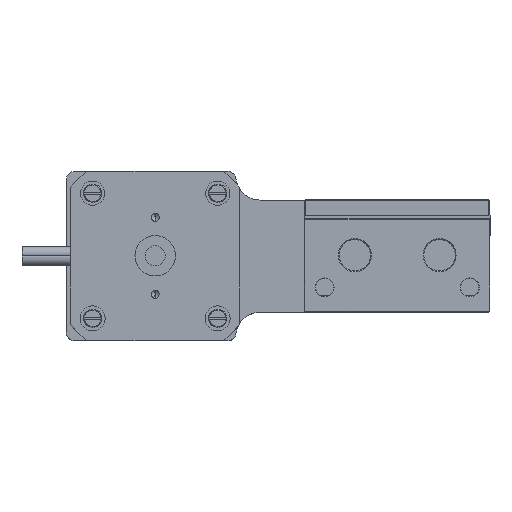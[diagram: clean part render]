
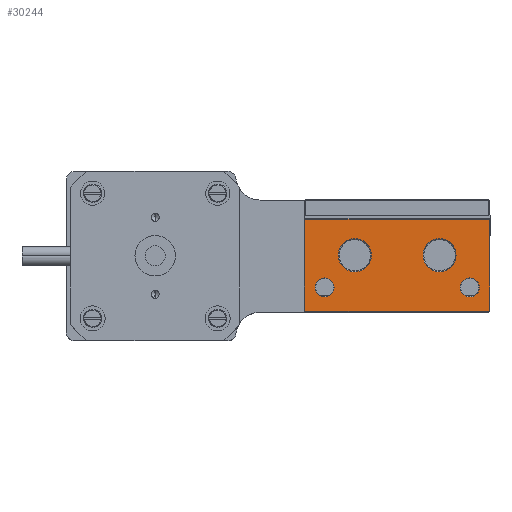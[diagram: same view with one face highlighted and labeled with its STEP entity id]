
A CAD part, top view. The second image highlights one B-rep face of the part: STEP entity #30244.
In plain terms, the highlighted planar face has unit normal (0, 0, 1).
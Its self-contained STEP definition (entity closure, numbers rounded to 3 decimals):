
#1327 = AXIS2_PLACEMENT_3D ( 'NONE', #18374, #69703, #25766 ) ;
#2484 = LINE ( 'NONE', #67274, #78247 ) ;
#3213 = CARTESIAN_POINT ( 'NONE',  ( -23., 22.9, 134. ) ) ;
#3937 = VERTEX_POINT ( 'NONE', #46865 ) ;
#4094 = DIRECTION ( 'NONE',  ( -1., 0., 0. ) ) ;
#5164 = DIRECTION ( 'NONE',  ( 1., 0., 0. ) ) ;
#5530 = VERTEX_POINT ( 'NONE', #23827 ) ;
#6008 = VERTEX_POINT ( 'NONE', #20230 ) ;
#6300 = VERTEX_POINT ( 'NONE', #52679 ) ;
#9007 = DIRECTION ( 'NONE',  ( 0., 0., -1. ) ) ;
#9051 = FACE_BOUND ( 'NONE', #30465, .T. ) ;
#9092 = CIRCLE ( 'NONE', #67226, 2.35 ) ;
#9543 = CARTESIAN_POINT ( 'NONE',  ( 10.5, 14., 134. ) ) ;
#11174 = VERTEX_POINT ( 'NONE', #51593 ) ;
#11446 = AXIS2_PLACEMENT_3D ( 'NONE', #53102, #9007, #60453 ) ;
#12953 = VERTEX_POINT ( 'NONE', #41707 ) ;
#14403 = CARTESIAN_POINT ( 'NONE',  ( -14.6, 14., 134. ) ) ;
#14686 = CARTESIAN_POINT ( 'NONE',  ( -6.4, 14., 134. ) ) ;
#17009 = DIRECTION ( 'NONE',  ( -1., 0., 0. ) ) ;
#17884 = VECTOR ( 'NONE', #54945, 1000. ) ;
#18374 = CARTESIAN_POINT ( 'NONE',  ( 18., 6., 134. ) ) ;
#18550 = CARTESIAN_POINT ( 'NONE',  ( -18., 6., 134. ) ) ;
#20230 = CARTESIAN_POINT ( 'NONE',  ( 6.4, 14., 134. ) ) ;
#21215 = ORIENTED_EDGE ( 'NONE', *, *, #42415, .T. ) ;
#21226 = EDGE_CURVE ( 'NONE', #6008, #77141, #25748, .T. ) ;
#23229 = EDGE_CURVE ( 'NONE', #6300, #12953, #65764, .T. ) ;
#23686 = AXIS2_PLACEMENT_3D ( 'NONE', #42127, #93082, #49502 ) ;
#23827 = CARTESIAN_POINT ( 'NONE',  ( 22.9, 0.1, 134. ) ) ;
#24237 = CARTESIAN_POINT ( 'NONE',  ( 15.65, 6., 134. ) ) ;
#25088 = PLANE ( 'NONE',  #57176 ) ;
#25748 = CIRCLE ( 'NONE', #79381, 4.1 ) ;
#25766 = DIRECTION ( 'NONE',  ( -1., 0., 0. ) ) ;
#25957 = DIRECTION ( 'NONE',  ( -1., 0., 0. ) ) ;
#27397 = CIRCLE ( 'NONE', #42104, 4.1 ) ;
#27858 = DIRECTION ( 'NONE',  ( 0., 0., -1. ) ) ;
#28654 = FACE_BOUND ( 'NONE', #78794, .T. ) ;
#30244 = ADVANCED_FACE ( 'NONE', ( #28654, #9051, #84686, #86964, #65403 ), #25088, .F. ) ;
#30465 = EDGE_LOOP ( 'NONE', ( #40516, #56901 ) ) ;
#33082 = DIRECTION ( 'NONE',  ( 0., 0., -1. ) ) ;
#33472 = CARTESIAN_POINT ( 'NONE',  ( 14.6, 14., 134. ) ) ;
#38519 = EDGE_LOOP ( 'NONE', ( #89948, #80307, #21215, #51389 ) ) ;
#39005 = CIRCLE ( 'NONE', #78151, 2.35 ) ;
#40516 = ORIENTED_EDGE ( 'NONE', *, *, #60845, .T. ) ;
#41442 = VECTOR ( 'NONE', #5164, 1000. ) ;
#41707 = CARTESIAN_POINT ( 'NONE',  ( -22.9, 22.9, 134. ) ) ;
#41919 = CARTESIAN_POINT ( 'NONE',  ( 23., 0.1, 134. ) ) ;
#42104 = AXIS2_PLACEMENT_3D ( 'NONE', #71780, #27858, #79067 ) ;
#42127 = CARTESIAN_POINT ( 'NONE',  ( -10.5, 14., 134. ) ) ;
#42415 = EDGE_CURVE ( 'NONE', #11174, #5530, #80294, .T. ) ;
#43038 = EDGE_CURVE ( 'NONE', #3937, #47798, #9092, .T. ) ;
#44098 = EDGE_CURVE ( 'NONE', #59077, #87642, #39005, .T. ) ;
#44334 = EDGE_CURVE ( 'NONE', #77141, #6008, #27397, .T. ) ;
#45094 = CARTESIAN_POINT ( 'NONE',  ( -15.65, 6., 134. ) ) ;
#45280 = CIRCLE ( 'NONE', #11446, 4.1 ) ;
#46865 = CARTESIAN_POINT ( 'NONE',  ( 20.35, 6., 134. ) ) ;
#47020 = DIRECTION ( 'NONE',  ( 0., 0., -1. ) ) ;
#47798 = VERTEX_POINT ( 'NONE', #24237 ) ;
#48258 = DIRECTION ( 'NONE',  ( 0., 0., -1. ) ) ;
#49502 = DIRECTION ( 'NONE',  ( -1., 0., 0. ) ) ;
#51389 = ORIENTED_EDGE ( 'NONE', *, *, #69980, .T. ) ;
#51593 = CARTESIAN_POINT ( 'NONE',  ( -22.9, 0.1, 134. ) ) ;
#52679 = CARTESIAN_POINT ( 'NONE',  ( 22.9, 22.9, 134. ) ) ;
#53102 = CARTESIAN_POINT ( 'NONE',  ( -10.5, 14., 134. ) ) ;
#54263 = ORIENTED_EDGE ( 'NONE', *, *, #91852, .T. ) ;
#54704 = DIRECTION ( 'NONE',  ( -1., 0., 0. ) ) ;
#54945 = DIRECTION ( 'NONE',  ( 0., -1., 0. ) ) ;
#55112 = EDGE_CURVE ( 'NONE', #47798, #3937, #57065, .T. ) ;
#55848 = EDGE_CURVE ( 'NONE', #12953, #11174, #76339, .T. ) ;
#56780 = CARTESIAN_POINT ( 'NONE',  ( -20.35, 6., 134. ) ) ;
#56901 = ORIENTED_EDGE ( 'NONE', *, *, #74024, .T. ) ;
#57065 = CIRCLE ( 'NONE', #1327, 2.35 ) ;
#57176 = AXIS2_PLACEMENT_3D ( 'NONE', #76310, #47020, #83632 ) ;
#57452 = CIRCLE ( 'NONE', #23686, 4.1 ) ;
#57546 = ORIENTED_EDGE ( 'NONE', *, *, #55112, .T. ) ;
#59077 = VERTEX_POINT ( 'NONE', #56780 ) ;
#59250 = ORIENTED_EDGE ( 'NONE', *, *, #44334, .T. ) ;
#60453 = DIRECTION ( 'NONE',  ( -1., 0., 0. ) ) ;
#60845 = EDGE_CURVE ( 'NONE', #93174, #61386, #45280, .T. ) ;
#61003 = DIRECTION ( 'NONE',  ( 0., 0., -1. ) ) ;
#61386 = VERTEX_POINT ( 'NONE', #14403 ) ;
#61520 = AXIS2_PLACEMENT_3D ( 'NONE', #76878, #33082, #84207 ) ;
#63923 = EDGE_LOOP ( 'NONE', ( #54263, #72957 ) ) ;
#65403 = FACE_OUTER_BOUND ( 'NONE', #38519, .T. ) ;
#65764 = LINE ( 'NONE', #3213, #82799 ) ;
#67226 = AXIS2_PLACEMENT_3D ( 'NONE', #91824, #48258, #4094 ) ;
#67274 = CARTESIAN_POINT ( 'NONE',  ( 22.9, 23., 134. ) ) ;
#68609 = ORIENTED_EDGE ( 'NONE', *, *, #21226, .T. ) ;
#69703 = DIRECTION ( 'NONE',  ( 0., 0., -1. ) ) ;
#69879 = DIRECTION ( 'NONE',  ( 0., 0., -1. ) ) ;
#69980 = EDGE_CURVE ( 'NONE', #5530, #6300, #2484, .T. ) ;
#71780 = CARTESIAN_POINT ( 'NONE',  ( 10.5, 14., 134. ) ) ;
#72957 = ORIENTED_EDGE ( 'NONE', *, *, #44098, .T. ) ;
#74024 = EDGE_CURVE ( 'NONE', #61386, #93174, #57452, .T. ) ;
#74555 = DIRECTION ( 'NONE',  ( 0., 1., 0. ) ) ;
#76310 = CARTESIAN_POINT ( 'NONE',  ( -23., 0., 134. ) ) ;
#76339 = LINE ( 'NONE', #91207, #17884 ) ;
#76878 = CARTESIAN_POINT ( 'NONE',  ( -18., 6., 134. ) ) ;
#77141 = VERTEX_POINT ( 'NONE', #33472 ) ;
#78151 = AXIS2_PLACEMENT_3D ( 'NONE', #18550, #69879, #25957 ) ;
#78247 = VECTOR ( 'NONE', #74555, 1000. ) ;
#78794 = EDGE_LOOP ( 'NONE', ( #59250, #68609 ) ) ;
#78880 = EDGE_LOOP ( 'NONE', ( #81497, #57546 ) ) ;
#79067 = DIRECTION ( 'NONE',  ( -1., 0., 0. ) ) ;
#79381 = AXIS2_PLACEMENT_3D ( 'NONE', #9543, #61003, #17009 ) ;
#80294 = LINE ( 'NONE', #41919, #41442 ) ;
#80307 = ORIENTED_EDGE ( 'NONE', *, *, #55848, .T. ) ;
#81497 = ORIENTED_EDGE ( 'NONE', *, *, #43038, .T. ) ;
#82799 = VECTOR ( 'NONE', #54704, 1000. ) ;
#83632 = DIRECTION ( 'NONE',  ( -1., 0., 0. ) ) ;
#84207 = DIRECTION ( 'NONE',  ( -1., 0., 0. ) ) ;
#84611 = CIRCLE ( 'NONE', #61520, 2.35 ) ;
#84686 = FACE_BOUND ( 'NONE', #63923, .T. ) ;
#86964 = FACE_BOUND ( 'NONE', #78880, .T. ) ;
#87642 = VERTEX_POINT ( 'NONE', #45094 ) ;
#89948 = ORIENTED_EDGE ( 'NONE', *, *, #23229, .T. ) ;
#91207 = CARTESIAN_POINT ( 'NONE',  ( -22.9, 0., 134. ) ) ;
#91824 = CARTESIAN_POINT ( 'NONE',  ( 18., 6., 134. ) ) ;
#91852 = EDGE_CURVE ( 'NONE', #87642, #59077, #84611, .T. ) ;
#93082 = DIRECTION ( 'NONE',  ( 0., 0., -1. ) ) ;
#93174 = VERTEX_POINT ( 'NONE', #14686 ) ;
